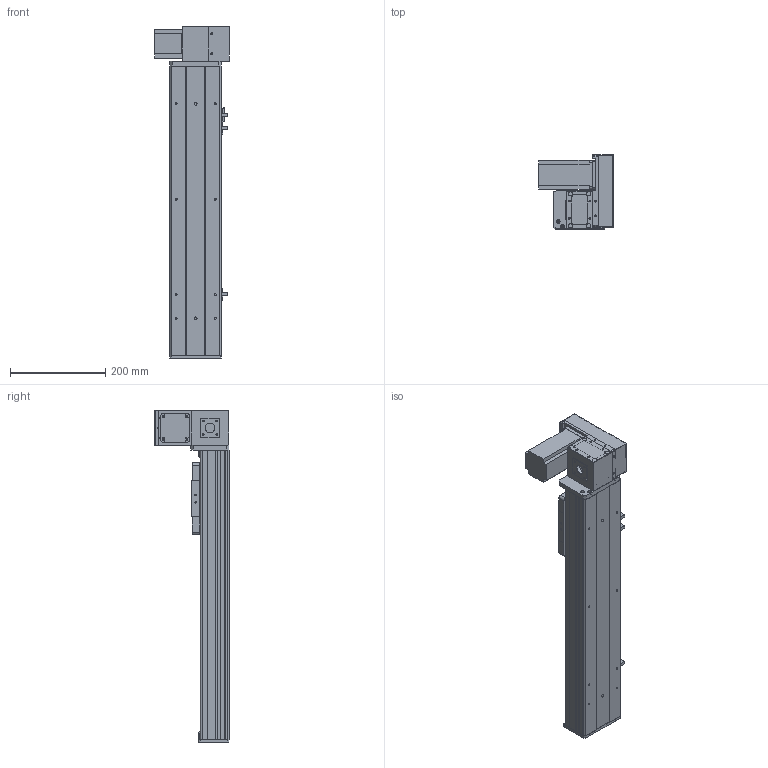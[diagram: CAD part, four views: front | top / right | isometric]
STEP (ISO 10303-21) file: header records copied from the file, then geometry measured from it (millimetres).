
FILE_DESCRIPTION (( 'STEP AP203' ), '1' );
FILE_NAME ('Y10CB-D90-S350-UR-P400W.STEP', '2020-02-16T03:04:19', ( '微软用户' ), ( '微软中国' ), 'SwSTEP 2.0', 'SolidWorks 2017', '' );
FILE_SCHEMA (( 'CONFIG_CONTROL_DESIGN' ));
Length unit declared in the file: millimetre
Products named in the file (18): 0Cb-俋欶---; 10CB9-掛极; Y10B-々湍喘謫眊楊擘啣--; 10CB-耜裔; 0B-萇儂楊擘啣; Y135C-陔俋离換覜結え-; san松下电机400不带刹车----; Y100-135俋离換覜ん--; 0B-源倛裔啣; Y10B--々湍喘謫眊--666; 0B-埴倛裔啣; Y10B-耜蚾蟀諉啣----; 10CB-詩湍-; 00B-俋欶BM--; Y10CB- 掛极耜裔啣-毀---; 0CB-雄赽釱---; Y10CB-D90-S350-UR-P400W; Y10C---詩湍揤啣
Assembly tree (21 placements, depth 2):
  Y10CB-D90-S350-UR-P400W
    0CB-雄赽釱---
    0Cb-俋欶---
    Y10B-々湍喘謫眊楊擘啣--
    0B-萇儂楊擘啣
    san松下电机400不带刹车----
    0B-源倛裔啣
    0B-埴倛裔啣
    10CB-詩湍-
    Y10CB- 掛极耜裔啣-毀---  x2
    Y10C---詩湍揤啣  x2
    10CB9-掛极
    10CB-耜裔
    Y135C-陔俋离換覜結え-
    Y100-135俋离換覜ん--  x3
    Y10B--々湍喘謫眊--666
    Y10B-耜蚾蟀諉啣----
    00B-俋欶BM--
Bounding box: 157 x 155.5 x 696 mm (x, y, z)
Volume: 2001539.5 mm3; surface area: 839386.7 mm2
Topology: 21 solids, 21 shells, 954 faces, 2523 edges, 1658 vertices
Faces by surface type: plane 471, cylinder 459, cone 24
Entity records: 29412 total; most frequent: CARTESIAN_POINT 5025, DIRECTION 4794, ORIENTED_EDGE 4516, EDGE_CURVE 2258, AXIS2_PLACEMENT_3D 1717, VERTEX_POINT 1484, LINE 1360, VECTOR 1360
